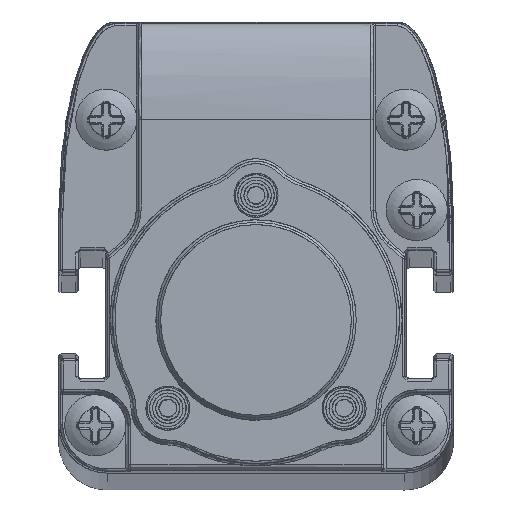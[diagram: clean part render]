
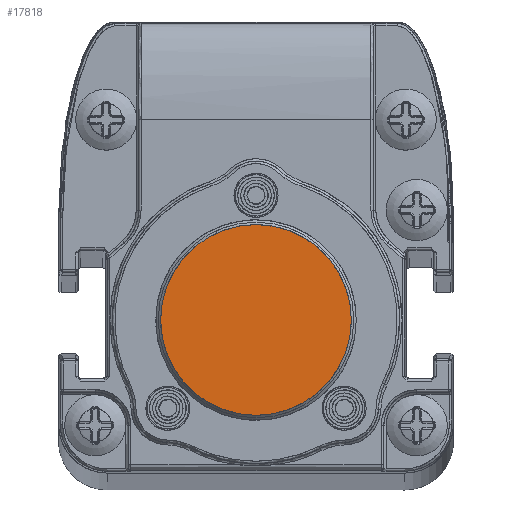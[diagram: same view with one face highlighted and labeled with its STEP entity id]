
A CAD part, top view. The second image highlights one B-rep face of the part: STEP entity #17818.
In plain terms, the highlighted planar face has unit normal (0, 0, 1).
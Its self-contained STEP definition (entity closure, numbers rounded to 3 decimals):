
#15038=B_SPLINE_CURVE_WITH_KNOTS('',3,(#62463,#62464,#62465,#62466,#62467,
#62468,#62469,#62470,#62471,#62472,#62473,#62474,#62475,#62476,#62477,#62478,
#62479,#62480,#62481,#62482,#62483,#62484,#62485,#62486,#62487,#62488,#62489,
#62490,#62491,#62492,#62493,#62494,#62495,#62496,#62497,#62498,#62499,#62500,
#62501,#62502,#62503,#62504,#62505,#62506,#62507,#62508,#62509,#62510,#62511,
#62512,#62513,#62514,#62515,#62516,#62517,#62518,#62519,#62520,#62521,#62522,
#62523,#62524,#62525,#62526,#62527,#62528,#62529,#62530,#62531,#62532,#62533,
#62534,#62535,#62536,#62537,#62538,#62539,#62540,#62541,#62542,#62543,#62544,
#62545,#62546,#62547,#62548,#62549,#62550,#62551,#62552,#62553,#62554,#62555,
#62556,#62557,#62558,#62559,#62560,#62561,#62562,#62563,#62564,#62565),
 .UNSPECIFIED.,.T.,.F.,(1,3,3,3,3,3,3,3,3,3,3,3,3,3,3,3,3,3,3,3,3,3,3,3,
3,3,3,3,3,3,3,3,3,3,3,3,1),(-0.029,0.,0.029,0.059,
0.088,0.118,0.147,0.176,
0.206,0.235,0.265,0.294,
0.324,0.353,0.382,0.412,
0.441,0.471,0.5,0.529,0.559,
0.588,0.618,0.647,0.676,
0.706,0.735,0.765,0.794,
0.824,0.853,0.882,0.912,
0.941,0.971,1.,1.029),.UNSPECIFIED.);
#17818=ADVANCED_FACE('',(#19795),#18714,.T.);
#18714=PLANE('',#42957);
#19795=FACE_OUTER_BOUND('',#21253,.T.);
#21253=EDGE_LOOP('',(#27476));
#27476=ORIENTED_EDGE('',*,*,#36357,.T.);
#31478=VERTEX_POINT('',#62566);
#36357=EDGE_CURVE('',#31478,#31478,#15038,.T.);
#42957=AXIS2_PLACEMENT_3D('',#62567,#46874,#46875);
#46874=DIRECTION('',(0.,0.,1.));
#46875=DIRECTION('',(1.,0.,0.));
#62463=CARTESIAN_POINT('',(7.8,0.,833.34));
#62464=CARTESIAN_POINT('',(7.8,0.465,833.34));
#62465=CARTESIAN_POINT('',(7.759,0.925,833.34));
#62466=CARTESIAN_POINT('',(7.679,1.376,833.34));
#62467=CARTESIAN_POINT('',(7.638,1.601,833.34));
#62468=CARTESIAN_POINT('',(7.588,1.825,833.34));
#62469=CARTESIAN_POINT('',(7.527,2.047,833.34));
#62470=CARTESIAN_POINT('',(7.466,2.269,833.34));
#62471=CARTESIAN_POINT('',(7.407,2.458,833.34));
#62472=CARTESIAN_POINT('',(7.315,2.708,833.34));
#62473=CARTESIAN_POINT('',(7.129,3.209,833.34));
#62474=CARTESIAN_POINT('',(6.898,3.683,833.34));
#62475=CARTESIAN_POINT('',(6.62,4.128,833.34));
#62476=CARTESIAN_POINT('',(6.343,4.573,833.34));
#62477=CARTESIAN_POINT('',(6.043,4.965,833.34));
#62478=CARTESIAN_POINT('',(5.651,5.376,833.34));
#62479=CARTESIAN_POINT('',(4.868,6.2,833.34));
#62480=CARTESIAN_POINT('',(3.912,6.837,833.34));
#62481=CARTESIAN_POINT('',(2.89,7.245,833.34));
#62482=CARTESIAN_POINT('',(2.378,7.449,833.34));
#62483=CARTESIAN_POINT('',(1.856,7.597,833.34));
#62484=CARTESIAN_POINT('',(1.324,7.689,833.34));
#62485=CARTESIAN_POINT('',(1.058,7.734,833.34));
#62486=CARTESIAN_POINT('',(0.79,7.766,833.34));
#62487=CARTESIAN_POINT('',(0.52,7.784,833.34));
#62488=CARTESIAN_POINT('',(0.249,7.801,833.34));
#62489=CARTESIAN_POINT('',(-0.055,7.804,833.34));
#62490=CARTESIAN_POINT('',(-0.3,7.794,833.34));
#62491=CARTESIAN_POINT('',(-0.79,7.775,833.34));
#62492=CARTESIAN_POINT('',(-1.271,7.712,833.34));
#62493=CARTESIAN_POINT('',(-1.742,7.604,833.34));
#62494=CARTESIAN_POINT('',(-2.213,7.496,833.34));
#62495=CARTESIAN_POINT('',(-2.713,7.327,833.34));
#62496=CARTESIAN_POINT('',(-3.123,7.147,833.34));
#62497=CARTESIAN_POINT('',(-3.534,6.968,833.34));
#62498=CARTESIAN_POINT('',(-3.924,6.757,833.34));
#62499=CARTESIAN_POINT('',(-4.293,6.513,833.34));
#62500=CARTESIAN_POINT('',(-4.477,6.392,833.34));
#62501=CARTESIAN_POINT('',(-4.656,6.262,833.34));
#62502=CARTESIAN_POINT('',(-4.83,6.125,833.34));
#62503=CARTESIAN_POINT('',(-5.004,5.987,833.34));
#62504=CARTESIAN_POINT('',(-5.15,5.864,833.34));
#62505=CARTESIAN_POINT('',(-5.337,5.688,833.34));
#62506=CARTESIAN_POINT('',(-5.712,5.337,833.34));
#62507=CARTESIAN_POINT('',(-6.047,4.956,833.34));
#62508=CARTESIAN_POINT('',(-6.341,4.545,833.34));
#62509=CARTESIAN_POINT('',(-6.635,4.134,833.34));
#62510=CARTESIAN_POINT('',(-6.869,3.738,833.34));
#62511=CARTESIAN_POINT('',(-7.102,3.226,833.34));
#62512=CARTESIAN_POINT('',(-7.567,2.203,833.34));
#62513=CARTESIAN_POINT('',(-7.8,1.124,833.34));
#62514=CARTESIAN_POINT('',(-7.8,0.,833.34));
#62515=CARTESIAN_POINT('',(-7.8,-0.562,833.34));
#62516=CARTESIAN_POINT('',(-7.742,-1.113,833.34));
#62517=CARTESIAN_POINT('',(-7.625,-1.651,833.34));
#62518=CARTESIAN_POINT('',(-7.509,-2.189,833.34));
#62519=CARTESIAN_POINT('',(-7.314,-2.758,833.34));
#62520=CARTESIAN_POINT('',(-7.102,-3.226,833.34));
#62521=CARTESIAN_POINT('',(-6.889,-3.694,833.34));
#62522=CARTESIAN_POINT('',(-6.636,-4.134,833.34));
#62523=CARTESIAN_POINT('',(-6.341,-4.544,833.34));
#62524=CARTESIAN_POINT('',(-6.194,-4.75,833.34));
#62525=CARTESIAN_POINT('',(-6.037,-4.947,833.34));
#62526=CARTESIAN_POINT('',(-5.87,-5.138,833.34));
#62527=CARTESIAN_POINT('',(-5.702,-5.329,833.34));
#62528=CARTESIAN_POINT('',(-5.5,-5.535,833.34));
#62529=CARTESIAN_POINT('',(-5.337,-5.688,833.34));
#62530=CARTESIAN_POINT('',(-5.01,-5.995,833.34));
#62531=CARTESIAN_POINT('',(-4.662,-6.27,833.34));
#62532=CARTESIAN_POINT('',(-4.293,-6.513,833.34));
#62533=CARTESIAN_POINT('',(-3.924,-6.756,833.34));
#62534=CARTESIAN_POINT('',(-3.573,-6.951,833.34));
#62535=CARTESIAN_POINT('',(-3.123,-7.147,833.34));
#62536=CARTESIAN_POINT('',(-2.674,-7.344,833.34));
#62537=CARTESIAN_POINT('',(-2.213,-7.496,833.34));
#62538=CARTESIAN_POINT('',(-1.743,-7.604,833.34));
#62539=CARTESIAN_POINT('',(-1.507,-7.658,833.34));
#62540=CARTESIAN_POINT('',(-1.269,-7.701,833.34));
#62541=CARTESIAN_POINT('',(-1.029,-7.732,833.34));
#62542=CARTESIAN_POINT('',(-0.789,-7.764,833.34));
#62543=CARTESIAN_POINT('',(-0.575,-7.784,833.34));
#62544=CARTESIAN_POINT('',(-0.3,-7.794,833.34));
#62545=CARTESIAN_POINT('',(0.801,-7.837,833.34));
#62546=CARTESIAN_POINT('',(1.834,-7.666,833.34));
#62547=CARTESIAN_POINT('',(2.89,-7.245,833.34));
#62548=CARTESIAN_POINT('',(3.417,-7.035,833.34));
#62549=CARTESIAN_POINT('',(3.912,-6.774,833.34));
#62550=CARTESIAN_POINT('',(4.372,-6.462,833.34));
#62551=CARTESIAN_POINT('',(4.833,-6.15,833.34));
#62552=CARTESIAN_POINT('',(5.283,-5.763,833.34));
#62553=CARTESIAN_POINT('',(5.651,-5.376,833.34));
#62554=CARTESIAN_POINT('',(6.019,-4.989,833.34));
#62555=CARTESIAN_POINT('',(6.342,-4.573,833.34));
#62556=CARTESIAN_POINT('',(6.62,-4.128,833.34));
#62557=CARTESIAN_POINT('',(6.759,-3.906,833.34));
#62558=CARTESIAN_POINT('',(6.886,-3.676,833.34));
#62559=CARTESIAN_POINT('',(7.002,-3.44,833.34));
#62560=CARTESIAN_POINT('',(7.117,-3.203,833.34));
#62561=CARTESIAN_POINT('',(7.234,-2.926,833.34));
#62562=CARTESIAN_POINT('',(7.315,-2.708,833.34));
#62563=CARTESIAN_POINT('',(7.638,-1.835,833.34));
#62564=CARTESIAN_POINT('',(7.8,-0.933,833.34));
#62565=CARTESIAN_POINT('',(7.8,0.,833.34));
#62566=CARTESIAN_POINT('',(7.8,0.,833.34));
#62567=CARTESIAN_POINT('',(-8.9,-8.81,833.34));
